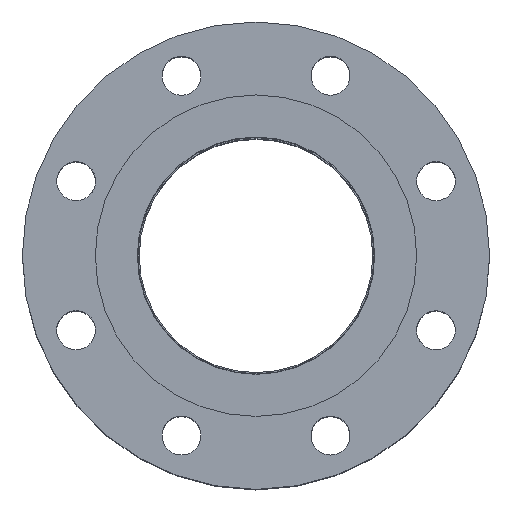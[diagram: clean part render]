
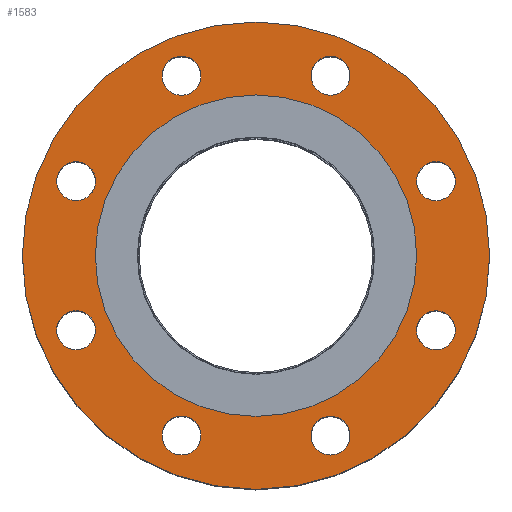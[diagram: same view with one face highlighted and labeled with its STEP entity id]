
A CAD part, top view. The second image highlights one B-rep face of the part: STEP entity #1583.
In plain terms, the highlighted planar face has unit normal (0, 0, 1).
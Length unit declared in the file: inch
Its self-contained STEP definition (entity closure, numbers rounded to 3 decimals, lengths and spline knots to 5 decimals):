
#84=FACE_BOUND('',#411,.T.);
#85=FACE_BOUND('',#412,.T.);
#86=FACE_BOUND('',#413,.T.);
#87=FACE_BOUND('',#414,.T.);
#88=FACE_BOUND('',#415,.T.);
#89=FACE_BOUND('',#416,.T.);
#90=FACE_BOUND('',#417,.T.);
#91=FACE_BOUND('',#418,.T.);
#92=FACE_BOUND('',#419,.T.);
#150=PLANE('',#1788);
#273=FACE_OUTER_BOUND('',#410,.T.);
#410=EDGE_LOOP('',(#1213));
#411=EDGE_LOOP('',(#1214));
#412=EDGE_LOOP('',(#1215));
#413=EDGE_LOOP('',(#1216));
#414=EDGE_LOOP('',(#1217));
#415=EDGE_LOOP('',(#1218));
#416=EDGE_LOOP('',(#1219));
#417=EDGE_LOOP('',(#1220));
#418=EDGE_LOOP('',(#1221));
#419=EDGE_LOOP('',(#1222));
#615=CIRCLE('',#1743,0.375);
#617=CIRCLE('',#1746,0.375);
#619=CIRCLE('',#1749,0.375);
#621=CIRCLE('',#1752,0.375);
#623=CIRCLE('',#1755,0.375);
#625=CIRCLE('',#1758,0.375);
#627=CIRCLE('',#1761,0.375);
#629=CIRCLE('',#1764,0.375);
#642=CIRCLE('',#1783,3.095);
#644=CIRCLE('',#1787,4.5);
#803=VERTEX_POINT('',#2758);
#805=VERTEX_POINT('',#2764);
#807=VERTEX_POINT('',#2770);
#809=VERTEX_POINT('',#2776);
#811=VERTEX_POINT('',#2782);
#813=VERTEX_POINT('',#2788);
#815=VERTEX_POINT('',#2794);
#817=VERTEX_POINT('',#2800);
#828=VERTEX_POINT('',#2832);
#830=VERTEX_POINT('',#2839);
#939=EDGE_CURVE('',#803,#803,#615,.T.);
#942=EDGE_CURVE('',#805,#805,#617,.T.);
#945=EDGE_CURVE('',#807,#807,#619,.T.);
#948=EDGE_CURVE('',#809,#809,#621,.T.);
#951=EDGE_CURVE('',#811,#811,#623,.T.);
#954=EDGE_CURVE('',#813,#813,#625,.T.);
#957=EDGE_CURVE('',#815,#815,#627,.T.);
#960=EDGE_CURVE('',#817,#817,#629,.T.);
#976=EDGE_CURVE('',#828,#828,#642,.T.);
#978=EDGE_CURVE('',#830,#830,#644,.T.);
#1213=ORIENTED_EDGE('',*,*,#978,.T.);
#1214=ORIENTED_EDGE('',*,*,#939,.T.);
#1215=ORIENTED_EDGE('',*,*,#942,.T.);
#1216=ORIENTED_EDGE('',*,*,#945,.T.);
#1217=ORIENTED_EDGE('',*,*,#948,.T.);
#1218=ORIENTED_EDGE('',*,*,#951,.T.);
#1219=ORIENTED_EDGE('',*,*,#954,.T.);
#1220=ORIENTED_EDGE('',*,*,#957,.T.);
#1221=ORIENTED_EDGE('',*,*,#960,.T.);
#1222=ORIENTED_EDGE('',*,*,#976,.T.);
#1583=ADVANCED_FACE('',(#273,#84,#85,#86,#87,#88,#89,#90,#91,#92),#150,
 .T.);
#1743=AXIS2_PLACEMENT_3D('',#2759,#2079,#2080);
#1746=AXIS2_PLACEMENT_3D('',#2765,#2086,#2087);
#1749=AXIS2_PLACEMENT_3D('',#2771,#2093,#2094);
#1752=AXIS2_PLACEMENT_3D('',#2777,#2100,#2101);
#1755=AXIS2_PLACEMENT_3D('',#2783,#2107,#2108);
#1758=AXIS2_PLACEMENT_3D('',#2789,#2114,#2115);
#1761=AXIS2_PLACEMENT_3D('',#2795,#2121,#2122);
#1764=AXIS2_PLACEMENT_3D('',#2801,#2128,#2129);
#1783=AXIS2_PLACEMENT_3D('',#2834,#2169,#2170);
#1787=AXIS2_PLACEMENT_3D('',#2840,#2177,#2178);
#1788=AXIS2_PLACEMENT_3D('',#2842,#2180,#2181);
#2079=DIRECTION('center_axis',(0.,0.,-1.));
#2080=DIRECTION('ref_axis',(0.707,-0.707,0.));
#2086=DIRECTION('center_axis',(0.,0.,-1.));
#2087=DIRECTION('ref_axis',(0.,-1.,0.));
#2093=DIRECTION('center_axis',(0.,0.,-1.));
#2094=DIRECTION('ref_axis',(-0.707,-0.707,0.));
#2100=DIRECTION('center_axis',(0.,0.,-1.));
#2101=DIRECTION('ref_axis',(-1.,0.,0.));
#2107=DIRECTION('center_axis',(0.,0.,-1.));
#2108=DIRECTION('ref_axis',(-0.707,0.707,0.));
#2114=DIRECTION('center_axis',(0.,0.,-1.));
#2115=DIRECTION('ref_axis',(0.,1.,0.));
#2121=DIRECTION('center_axis',(0.,0.,-1.));
#2122=DIRECTION('ref_axis',(0.707,0.707,0.));
#2128=DIRECTION('center_axis',(0.,0.,-1.));
#2129=DIRECTION('ref_axis',(1.,0.,0.));
#2169=DIRECTION('center_axis',(0.,0.,-1.));
#2170=DIRECTION('ref_axis',(0.,1.,0.));
#2177=DIRECTION('center_axis',(0.,0.,1.));
#2178=DIRECTION('ref_axis',(1.,0.,0.));
#2180=DIRECTION('center_axis',(0.,0.,1.));
#2181=DIRECTION('ref_axis',(1.,0.,0.));
#2758=CARTESIAN_POINT('',(1.1699,3.72971,0.44));
#2759=CARTESIAN_POINT('Origin',(1.43506,3.46455,0.44));
#2764=CARTESIAN_POINT('',(3.46455,1.81006,0.44));
#2765=CARTESIAN_POINT('Origin',(3.46455,1.43506,0.44));
#2770=CARTESIAN_POINT('',(3.72971,-1.1699,0.44));
#2771=CARTESIAN_POINT('Origin',(3.46455,-1.43506,0.44));
#2776=CARTESIAN_POINT('',(1.81006,-3.46455,0.44));
#2777=CARTESIAN_POINT('Origin',(1.43506,-3.46455,0.44));
#2782=CARTESIAN_POINT('',(-1.1699,-3.72971,0.44));
#2783=CARTESIAN_POINT('Origin',(-1.43506,-3.46455,0.44));
#2788=CARTESIAN_POINT('',(-3.46455,-1.81006,0.44));
#2789=CARTESIAN_POINT('Origin',(-3.46455,-1.43506,0.44));
#2794=CARTESIAN_POINT('',(-3.72971,1.1699,0.44));
#2795=CARTESIAN_POINT('Origin',(-3.46455,1.43506,0.44));
#2800=CARTESIAN_POINT('',(-1.81006,3.46455,0.44));
#2801=CARTESIAN_POINT('Origin',(-1.43506,3.46455,0.44));
#2832=CARTESIAN_POINT('',(0.,-3.095,0.44));
#2834=CARTESIAN_POINT('Origin',(0.,0.,0.44));
#2839=CARTESIAN_POINT('',(0.,-4.5,0.44));
#2840=CARTESIAN_POINT('Origin',(0.,0.,0.44));
#2842=CARTESIAN_POINT('Origin',(0.,2.285,0.44));
